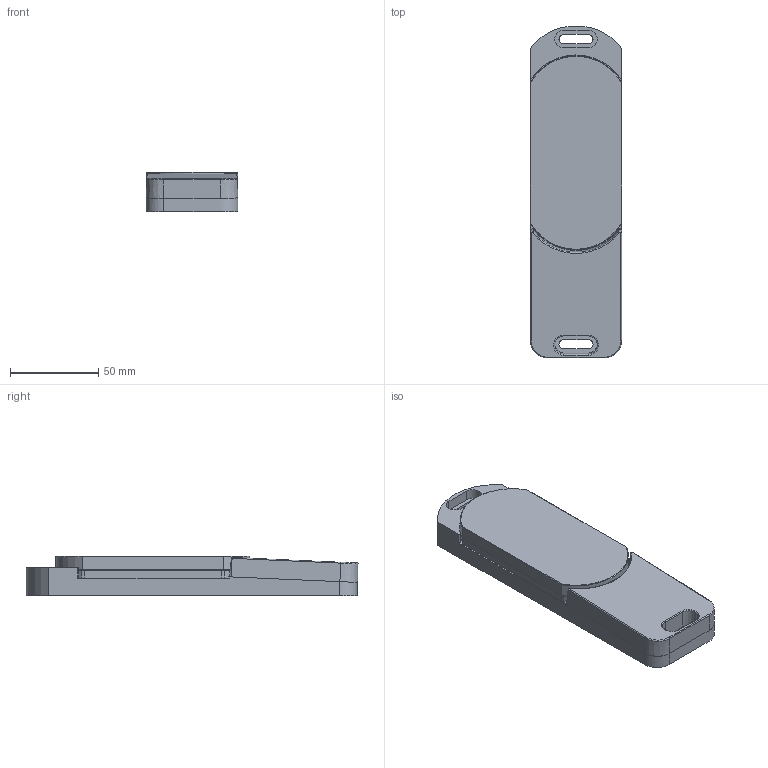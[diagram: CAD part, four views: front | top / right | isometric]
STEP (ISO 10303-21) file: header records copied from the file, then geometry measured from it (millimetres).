
FILE_DESCRIPTION(/* description */ (''),/* implementation_level */ '2;1');
FILE_NAME(/* name */ 'D:\_Vault\Workspace\Projektordner\Sensoren\PSENsl 1kN\Kundendaten/2009855_B_PSEN_sl_10_Betätiger.stp',/* time_stamp */ '2018-07-10T10:37:32+02:00',/* author */ ('prim'),/* organization */ (''),/* preprocessor_version */ 'ST-DEVELOPER v16.5',/* originating_system */ 'Autodesk Inventor 2017',/* authorisation */ '');
FILE_SCHEMA (('AUTOMOTIVE_DESIGN { 1 0 10303 214 3 1 1 }'));
Length unit declared in the file: millimetre
Products named in the file (1): 2009855
Bounding box: 52.01 x 188.16 x 22.5 mm (x, y, z)
Volume: 192316.5 mm3; surface area: 32902.5 mm2
Topology: 1 solids, 1 shells, 162 faces, 411 edges, 266 vertices
Faces by surface type: plane 90, cylinder 46, cone 12, bspline 8, torus 6
Full cylindrical faces by diameter (mm): 4.134 x2, 8.5 x1, 15 x1, 16 x1, 16.5 x1
Entity records: 5071 total; most frequent: CARTESIAN_POINT 1090, DIRECTION 832, ORIENTED_EDGE 800, EDGE_CURVE 400, AXIS2_PLACEMENT_3D 293, VERTEX_POINT 263, LINE 246, VECTOR 246
